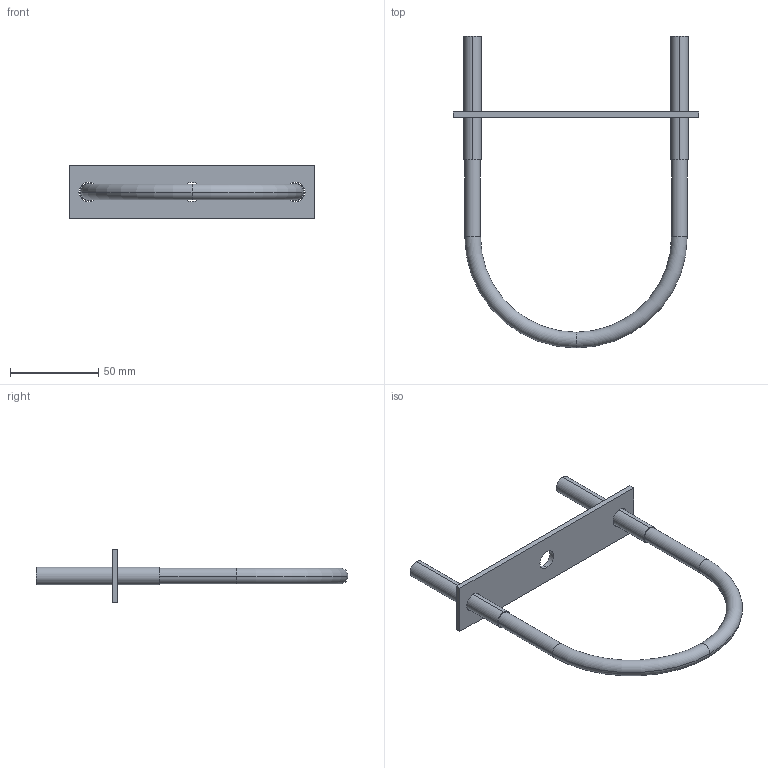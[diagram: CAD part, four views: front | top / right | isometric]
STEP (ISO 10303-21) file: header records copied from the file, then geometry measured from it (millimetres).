
FILE_DESCRIPTION((''),'2;1');
FILE_NAME('2014812200_ASM','2017-05-12T',('Administrator'),(''),'PRO/ENGINEER BY PARAMETRIC TECHNOLOGY CORPORATION, 2009360','PRO/ENGINEER BY PARAMETRIC TECHNOLOGY CORPORATION, 2009360','');
FILE_SCHEMA(('AUTOMOTIVE_DESIGN_CC2 { 1 2 10303 214 -1 1 5 2 }'));
Length unit declared in the file: millimetre
Products named in the file (3): MANIFOLD_SOLID_BREP_119; MANIFOLD_SOLID_BREP_120; 2014812200_ASM
Assembly tree (2 placements, depth 2):
  2014812200_ASM
    MANIFOLD_SOLID_BREP_119
    MANIFOLD_SOLID_BREP_120
Bounding box: 139 x 176.45 x 30 mm (x, y, z)
Volume: 39496.1 mm3; surface area: 21253.9 mm2
Topology: 2 solids, 2 shells, 28 faces, 74 edges, 52 vertices
Faces by surface type: cylinder 14, plane 10, torus 4
Entity records: 1229 total; most frequent: DIRECTION 188, CARTESIAN_POINT 159, ORIENTED_EDGE 148, AXIS2_PLACEMENT_3D 81, PRESENTATION_STYLE_ASSIGNMENT 76, STYLED_ITEM 76, CURVE_STYLE 74, EDGE_CURVE 74
